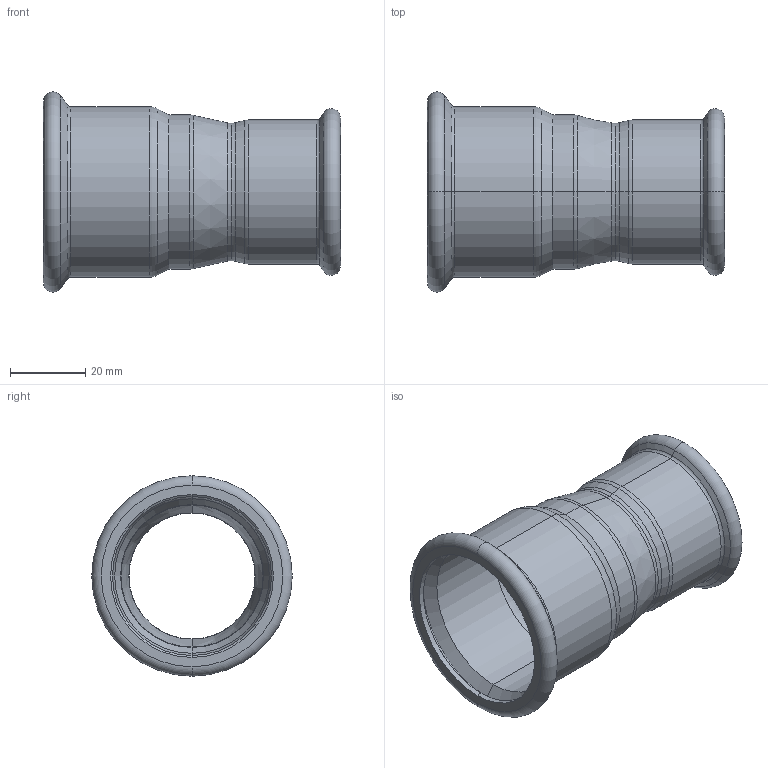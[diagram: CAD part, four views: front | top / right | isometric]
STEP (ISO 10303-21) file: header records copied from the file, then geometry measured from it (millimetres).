
FILE_DESCRIPTION (( 'STEP AP214' ), '1' );
FILE_NAME ('R423500.STEP', '2025-08-17T15:10:40', ( '' ), ( '' ), 'SwSTEP 2.0', 'SolidWorks 2020', '' );
FILE_SCHEMA (( 'AUTOMOTIVE_DESIGN' ));
Length unit declared in the file: millimetre
Products named in the file (1): R423500
Bounding box: 79 x 53.28 x 53.28 mm (x, y, z)
Volume: 17761 mm3; surface area: 23143.5 mm2
Topology: 1 solids, 1 shells, 76 faces, 152 edges, 80 vertices
Faces by surface type: torus 36, cone 20, cylinder 16, plane 4
Entity records: 2746 total; most frequent: DIRECTION 422, CARTESIAN_POINT 309, ORIENTED_EDGE 304, AXIS2_PLACEMENT_3D 193, EDGE_CURVE 152, CIRCLE 116, EDGE_LOOP 80, VERTEX_POINT 80
